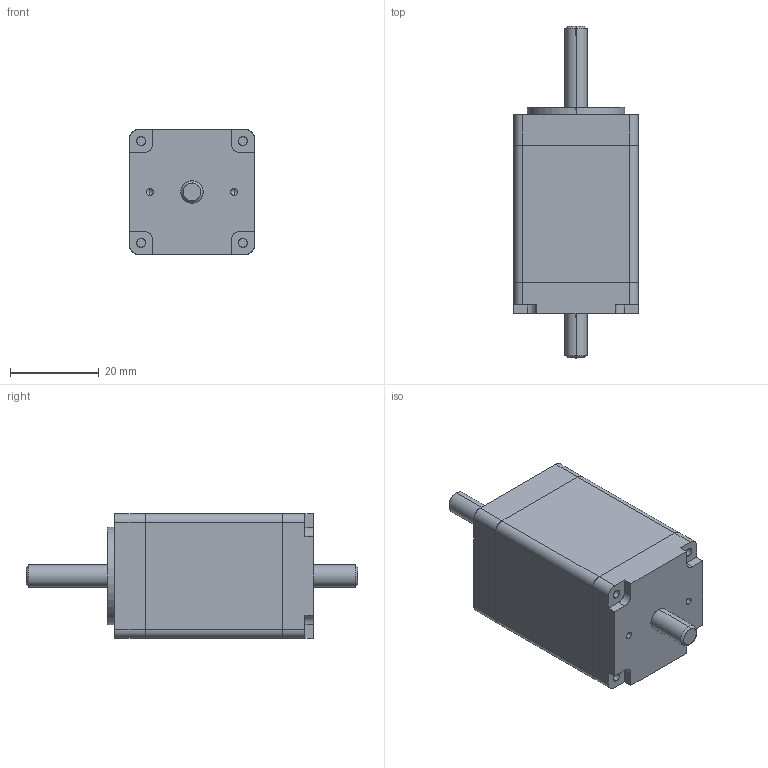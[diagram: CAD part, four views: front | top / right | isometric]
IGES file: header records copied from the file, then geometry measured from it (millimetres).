
Start section: SolidWorks IGES file using analytic representation for surfaces
Global section: file name: C:\Users\Christine\Documents\Arcus\Project #21\STM-11-2-2\STM-11-2-2.IGS; native system: SolidWorks 2008; preprocessor: SolidWorks 2008; author: Christine; date: 131021.120330; units: millimetre
Bounding box: 28.2 x 75 x 28.2 mm (x, y, z)
Surface area: 10588.7 mm2 (no closed solid volume)
Topology: 0 solids, 0 shells, 103 faces, 1528 edges, 1516 vertices
Faces by surface type: revolution 66, bspline 37
